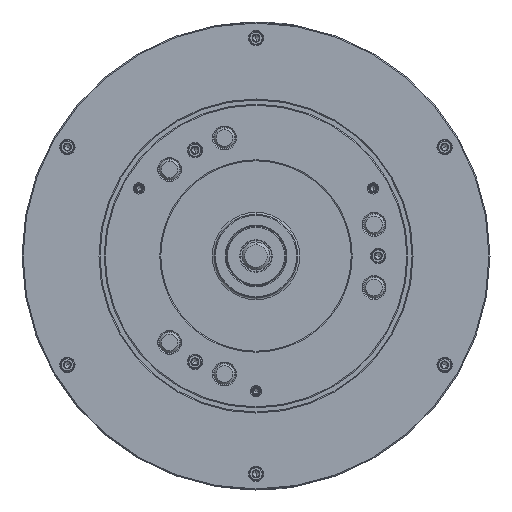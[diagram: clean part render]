
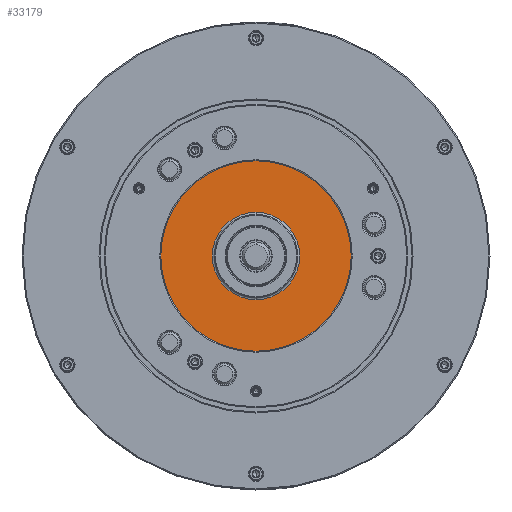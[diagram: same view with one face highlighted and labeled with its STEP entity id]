
A CAD part, left-side view. The second image highlights one B-rep face of the part: STEP entity #33179.
In plain terms, the highlighted planar face has unit normal (-1, 0, 0).
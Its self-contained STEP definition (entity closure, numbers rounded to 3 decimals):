
#544 = VERTEX_POINT ( 'NONE', #91384 ) ;
#3866 = EDGE_CURVE ( 'NONE', #544, #137599, #14046, .T. ) ;
#5722 = DIRECTION ( 'NONE',  ( 0., 0., -1. ) ) ;
#10809 = DIRECTION ( 'NONE',  ( -1., 0., 0. ) ) ;
#12204 = DIRECTION ( 'NONE',  ( -1., 0., 0. ) ) ;
#12440 = EDGE_CURVE ( 'NONE', #137599, #544, #60897, .T. ) ;
#14046 = CIRCLE ( 'NONE', #95869, 91.54 ) ;
#16684 = CARTESIAN_POINT ( 'NONE',  ( -111.5, 91.54, 0. ) ) ;
#18211 = AXIS2_PLACEMENT_3D ( 'NONE', #24704, #33535, #123571 ) ;
#24704 = CARTESIAN_POINT ( 'NONE',  ( -111.5, 0., 0. ) ) ;
#27683 = FACE_OUTER_BOUND ( 'NONE', #79425, .T. ) ;
#33179 = ADVANCED_FACE ( 'NONE', ( #105303, #27683 ), #117002, .F. ) ;
#33535 = DIRECTION ( 'NONE',  ( -1., 0., 0. ) ) ;
#42251 = AXIS2_PLACEMENT_3D ( 'NONE', #121376, #10809, #78148 ) ;
#57907 = ORIENTED_EDGE ( 'NONE', *, *, #3866, .T. ) ;
#58777 = CIRCLE ( 'NONE', #96076, 42. ) ;
#60897 = CIRCLE ( 'NONE', #42251, 91.54 ) ;
#62592 = ORIENTED_EDGE ( 'NONE', *, *, #110388, .F. ) ;
#65350 = DIRECTION ( 'NONE',  ( 0., 0., 1. ) ) ;
#73946 = EDGE_LOOP ( 'NONE', ( #81583, #62592 ) ) ;
#75932 = DIRECTION ( 'NONE',  ( 0., 0., 1. ) ) ;
#77357 = CARTESIAN_POINT ( 'NONE',  ( -111.5, 0., 0. ) ) ;
#78148 = DIRECTION ( 'NONE',  ( 0., 0., 1. ) ) ;
#79425 = EDGE_LOOP ( 'NONE', ( #83289, #57907 ) ) ;
#81343 = CIRCLE ( 'NONE', #18211, 42. ) ;
#81583 = ORIENTED_EDGE ( 'NONE', *, *, #87896, .F. ) ;
#83289 = ORIENTED_EDGE ( 'NONE', *, *, #12440, .T. ) ;
#87896 = EDGE_CURVE ( 'NONE', #98997, #121944, #58777, .T. ) ;
#91384 = CARTESIAN_POINT ( 'NONE',  ( -111.5, 0., -91.54 ) ) ;
#95869 = AXIS2_PLACEMENT_3D ( 'NONE', #120282, #108587, #65350 ) ;
#96076 = AXIS2_PLACEMENT_3D ( 'NONE', #77357, #12204, #75932 ) ;
#97616 = CARTESIAN_POINT ( 'NONE',  ( -111.5, 0., 91.54 ) ) ;
#98997 = VERTEX_POINT ( 'NONE', #133284 ) ;
#102959 = AXIS2_PLACEMENT_3D ( 'NONE', #16684, #106032, #5722 ) ;
#105303 = FACE_BOUND ( 'NONE', #73946, .T. ) ;
#106032 = DIRECTION ( 'NONE',  ( 1., 0., 0. ) ) ;
#108587 = DIRECTION ( 'NONE',  ( -1., 0., 0. ) ) ;
#110388 = EDGE_CURVE ( 'NONE', #121944, #98997, #81343, .T. ) ;
#117002 = PLANE ( 'NONE',  #102959 ) ;
#120282 = CARTESIAN_POINT ( 'NONE',  ( -111.5, 0., 0. ) ) ;
#121376 = CARTESIAN_POINT ( 'NONE',  ( -111.5, 0., 0. ) ) ;
#121944 = VERTEX_POINT ( 'NONE', #125397 ) ;
#123571 = DIRECTION ( 'NONE',  ( 0., 0., 1. ) ) ;
#125397 = CARTESIAN_POINT ( 'NONE',  ( -111.5, 0., -42. ) ) ;
#133284 = CARTESIAN_POINT ( 'NONE',  ( -111.5, 0., 42. ) ) ;
#137599 = VERTEX_POINT ( 'NONE', #97616 ) ;
